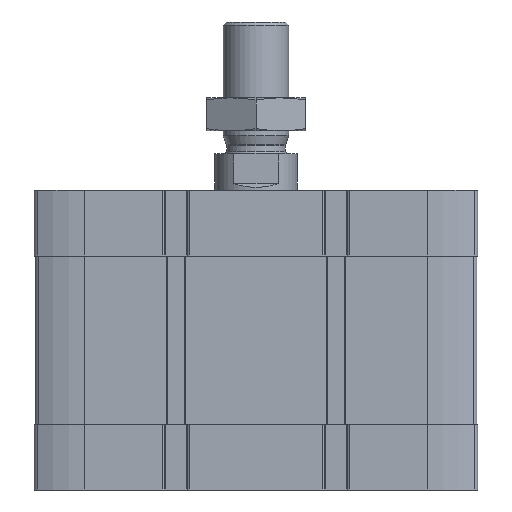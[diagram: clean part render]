
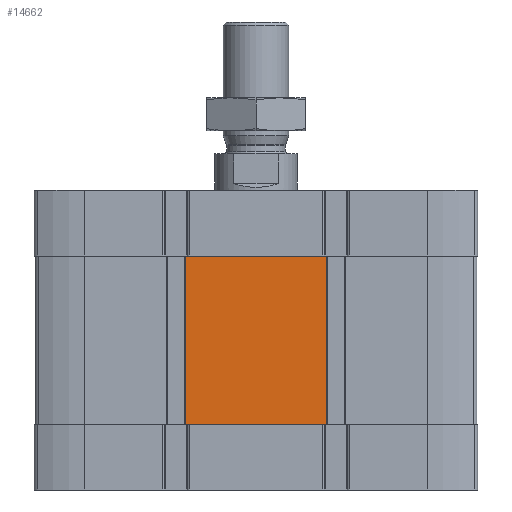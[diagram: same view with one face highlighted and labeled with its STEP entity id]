
A CAD part, front view. The second image highlights one B-rep face of the part: STEP entity #14662.
In plain terms, the highlighted planar face has unit normal (0, -1, 0).
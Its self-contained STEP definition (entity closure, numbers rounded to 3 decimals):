
#40 = EDGE_CURVE ( 'NONE', #14969, #7837, #16385, .T. ) ;
#163 = CARTESIAN_POINT ( 'NONE',  ( -21.3, -67., -71. ) ) ;
#817 = VERTEX_POINT ( 'NONE', #921 ) ;
#921 = CARTESIAN_POINT ( 'NONE',  ( 21.3, -67., -71. ) ) ;
#964 = VERTEX_POINT ( 'NONE', #11463 ) ;
#1391 = VECTOR ( 'NONE', #10445, 1000. ) ;
#1497 = EDGE_CURVE ( 'NONE', #964, #16750, #2934, .T. ) ;
#1607 = EDGE_CURVE ( 'NONE', #5423, #6934, #13357, .T. ) ;
#2358 = ORIENTED_EDGE ( 'NONE', *, *, #40, .T. ) ;
#2605 = CARTESIAN_POINT ( 'NONE',  ( -21.3, -67., -20. ) ) ;
#2724 = VECTOR ( 'NONE', #8759, 1000. ) ;
#2884 = CARTESIAN_POINT ( 'NONE',  ( 20.687, -67., -20. ) ) ;
#2934 = LINE ( 'NONE', #163, #6786 ) ;
#3279 = DIRECTION ( 'NONE',  ( 1., 0., 0. ) ) ;
#3684 = VECTOR ( 'NONE', #5336, 1000. ) ;
#4150 = DIRECTION ( 'NONE',  ( 1., 0., 0. ) ) ;
#4153 = LINE ( 'NONE', #2605, #9304 ) ;
#4249 = VECTOR ( 'NONE', #3279, 1000. ) ;
#4976 = CARTESIAN_POINT ( 'NONE',  ( -21.3, -67., -20. ) ) ;
#5199 = ORIENTED_EDGE ( 'NONE', *, *, #15234, .F. ) ;
#5336 = DIRECTION ( 'NONE',  ( 1., 0., 0. ) ) ;
#5423 = VERTEX_POINT ( 'NONE', #2884 ) ;
#6093 = CARTESIAN_POINT ( 'NONE',  ( 20.687, -67., -71. ) ) ;
#6095 = DIRECTION ( 'NONE',  ( 1., 0., 0. ) ) ;
#6199 = EDGE_CURVE ( 'NONE', #7837, #817, #6357, .T. ) ;
#6357 = LINE ( 'NONE', #7642, #13568 ) ;
#6568 = CARTESIAN_POINT ( 'NONE',  ( -67., -67., -71. ) ) ;
#6786 = VECTOR ( 'NONE', #14110, 1000. ) ;
#6934 = VERTEX_POINT ( 'NONE', #15857 ) ;
#7189 = LINE ( 'NONE', #10301, #2724 ) ;
#7425 = ORIENTED_EDGE ( 'NONE', *, *, #1607, .F. ) ;
#7642 = CARTESIAN_POINT ( 'NONE',  ( -67., -67., -71. ) ) ;
#7835 = EDGE_CURVE ( 'NONE', #817, #6934, #7189, .T. ) ;
#7837 = VERTEX_POINT ( 'NONE', #6093 ) ;
#7906 = LINE ( 'NONE', #11772, #3684 ) ;
#8034 = CARTESIAN_POINT ( 'NONE',  ( -21.3, -67., -71. ) ) ;
#8759 = DIRECTION ( 'NONE',  ( 0., 0., 1. ) ) ;
#9304 = VECTOR ( 'NONE', #16531, 1000. ) ;
#9831 = LINE ( 'NONE', #16710, #14518 ) ;
#10113 = AXIS2_PLACEMENT_3D ( 'NONE', #6568, #17776, #17406 ) ;
#10301 = CARTESIAN_POINT ( 'NONE',  ( 21.3, -67., -71. ) ) ;
#10445 = DIRECTION ( 'NONE',  ( 1., 0., 0. ) ) ;
#11290 = CARTESIAN_POINT ( 'NONE',  ( -20.687, -67., -20. ) ) ;
#11463 = CARTESIAN_POINT ( 'NONE',  ( -21.3, -67., -71. ) ) ;
#11624 = CARTESIAN_POINT ( 'NONE',  ( -67., -67., -20. ) ) ;
#11772 = CARTESIAN_POINT ( 'NONE',  ( -67., -67., -71. ) ) ;
#11983 = FACE_OUTER_BOUND ( 'NONE', #15936, .T. ) ;
#12143 = ORIENTED_EDGE ( 'NONE', *, *, #6199, .T. ) ;
#12431 = ORIENTED_EDGE ( 'NONE', *, *, #15008, .T. ) ;
#13357 = LINE ( 'NONE', #11624, #4249 ) ;
#13568 = VECTOR ( 'NONE', #6095, 1000. ) ;
#14110 = DIRECTION ( 'NONE',  ( 0., 0., 1. ) ) ;
#14518 = VECTOR ( 'NONE', #4150, 1000. ) ;
#14662 = ADVANCED_FACE ( 'NONE', ( #11983 ), #16304, .T. ) ;
#14885 = ORIENTED_EDGE ( 'NONE', *, *, #7835, .T. ) ;
#14969 = VERTEX_POINT ( 'NONE', #15651 ) ;
#15008 = EDGE_CURVE ( 'NONE', #964, #14969, #7906, .T. ) ;
#15126 = VERTEX_POINT ( 'NONE', #11290 ) ;
#15234 = EDGE_CURVE ( 'NONE', #16750, #15126, #9831, .T. ) ;
#15651 = CARTESIAN_POINT ( 'NONE',  ( -20.687, -67., -71. ) ) ;
#15826 = ORIENTED_EDGE ( 'NONE', *, *, #1497, .F. ) ;
#15857 = CARTESIAN_POINT ( 'NONE',  ( 21.3, -67., -20. ) ) ;
#15936 = EDGE_LOOP ( 'NONE', ( #15826, #12431, #2358, #12143, #14885, #7425, #16093, #5199 ) ) ;
#16093 = ORIENTED_EDGE ( 'NONE', *, *, #16855, .F. ) ;
#16304 = PLANE ( 'NONE',  #10113 ) ;
#16385 = LINE ( 'NONE', #8034, #1391 ) ;
#16531 = DIRECTION ( 'NONE',  ( 1., 0., 0. ) ) ;
#16710 = CARTESIAN_POINT ( 'NONE',  ( -67., -67., -20. ) ) ;
#16750 = VERTEX_POINT ( 'NONE', #4976 ) ;
#16855 = EDGE_CURVE ( 'NONE', #15126, #5423, #4153, .T. ) ;
#17406 = DIRECTION ( 'NONE',  ( 0., 0., -1. ) ) ;
#17776 = DIRECTION ( 'NONE',  ( 0., -1., 0. ) ) ;
